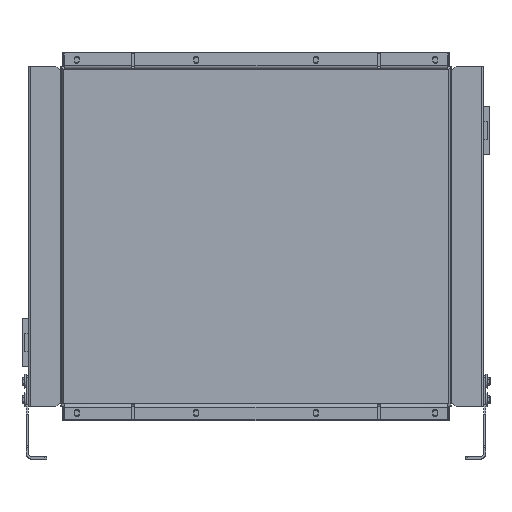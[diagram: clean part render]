
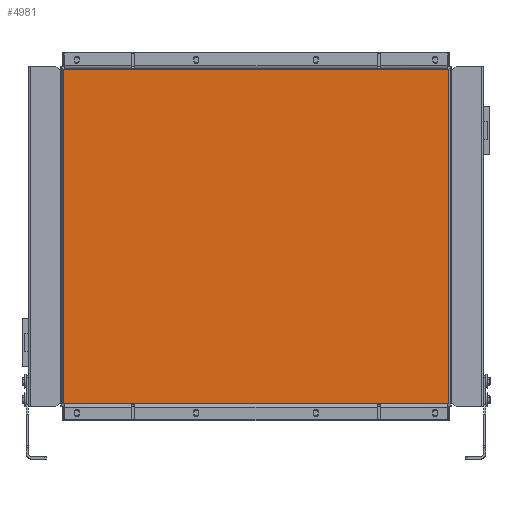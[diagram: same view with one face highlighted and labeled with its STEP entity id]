
A CAD part, top view. The second image highlights one B-rep face of the part: STEP entity #4981.
In plain terms, the highlighted planar face has unit normal (0, 0, 1).
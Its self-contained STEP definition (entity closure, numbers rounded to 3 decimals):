
#4981 = ADVANCED_FACE( '', ( #9453 ), #9454, .T. );
#9453 = FACE_OUTER_BOUND( '', #21538, .T. );
#9454 = PLANE( '', #21539 );
#21538 = EDGE_LOOP( '', ( #33472, #33473, #33474, #33475 ) );
#21539 = AXIS2_PLACEMENT_3D( '', #33476, #33477, #33478 );
#33472 = ORIENTED_EDGE( '', *, *, #38038, .T. );
#33473 = ORIENTED_EDGE( '', *, *, #39940, .F. );
#33474 = ORIENTED_EDGE( '', *, *, #37054, .F. );
#33475 = ORIENTED_EDGE( '', *, *, #40235, .T. );
#33476 = CARTESIAN_POINT( '', ( 425., 728., 56.5 ) );
#33477 = DIRECTION( '', ( 0., 0., 1. ) );
#33478 = DIRECTION( '', ( 1., 0., 0. ) );
#37054 = EDGE_CURVE( '', #41629, #41631, #41632, .T. );
#38038 = EDGE_CURVE( '', #43310, #43308, #43311, .T. );
#39940 = EDGE_CURVE( '', #41631, #43308, #46203, .T. );
#40235 = EDGE_CURVE( '', #41629, #43310, #46582, .T. );
#41629 = VERTEX_POINT( '', #50522 );
#41631 = VERTEX_POINT( '', #50525 );
#41632 = LINE( '', #50526, #50527 );
#43308 = VERTEX_POINT( '', #60481 );
#43310 = VERTEX_POINT( '', #60484 );
#43311 = LINE( '', #60485, #60486 );
#46203 = LINE( '', #76306, #76307 );
#46582 = LINE( '', #78549, #78550 );
#50522 = CARTESIAN_POINT( '', ( 419.247, 0., 56.5 ) );
#50525 = CARTESIAN_POINT( '', ( -419.247, 0., 56.5 ) );
#50526 = CARTESIAN_POINT( '', ( 425., 0., 56.5 ) );
#50527 = VECTOR( '', #83587, 1000. );
#60481 = CARTESIAN_POINT( '', ( -419.247, 728., 56.5 ) );
#60484 = CARTESIAN_POINT( '', ( 419.247, 728., 56.5 ) );
#60485 = CARTESIAN_POINT( '', ( 425., 728., 56.5 ) );
#60486 = VECTOR( '', #84245, 1000. );
#76306 = CARTESIAN_POINT( '', ( -419.247, -395.077, 56.5 ) );
#76307 = VECTOR( '', #85785, 1000. );
#78549 = CARTESIAN_POINT( '', ( 419.247, -395.077, 56.5 ) );
#78550 = VECTOR( '', #85965, 1000. );
#83587 = DIRECTION( '', ( -1., 0., 0. ) );
#84245 = DIRECTION( '', ( -1., 0., 0. ) );
#85785 = DIRECTION( '', ( 0., 1., 0. ) );
#85965 = DIRECTION( '', ( 0., 1., 0. ) );
